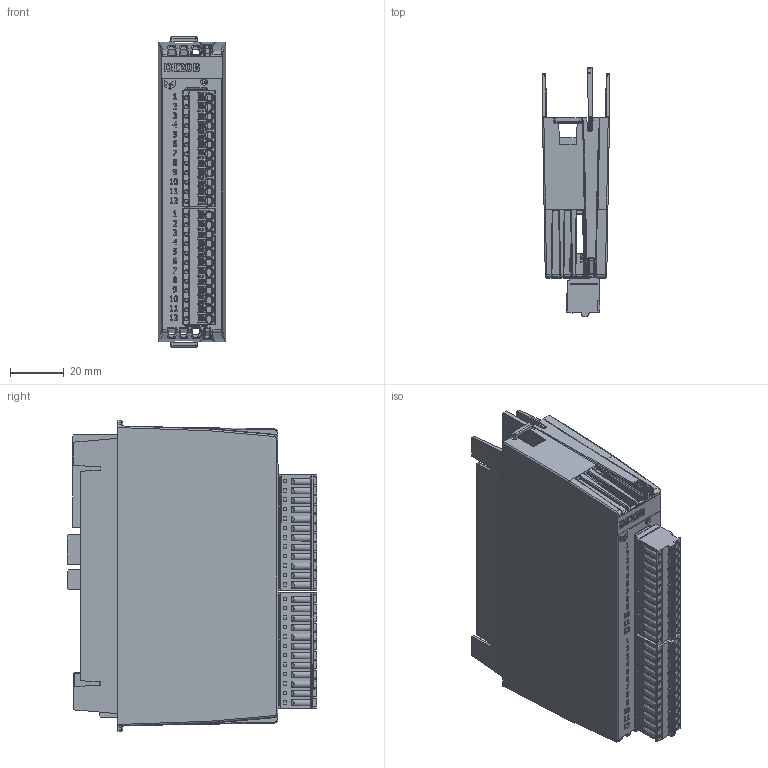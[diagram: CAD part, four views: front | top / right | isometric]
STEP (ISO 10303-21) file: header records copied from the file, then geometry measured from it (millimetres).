
FILE_DESCRIPTION(/* description */ (''),/* implementation_level */ '2;1');
FILE_NAME(/* name */ 'C:\Users\Public\Documents\Autodesk\Inventor 2023\DI20B_Simplified.stp',/* time_stamp */ '2024-10-15T20:46:02+02:00',/* author */ ('shoma'),/* organization */ (''),/* preprocessor_version */ 'ST-DEVELOPER v19',/* originating_system */ 'Autodesk Inventor 2023',/* authorisation */ '');
FILE_SCHEMA (('AUTOMOTIVE_DESIGN { 1 0 10303 214 3 1 1 }'));
Products named in the file (1): DI20B_Simplified
Bounding box: 24.95 x 92.98 x 115.5 mm (x, y, z)
Volume: 132666.5 mm3; surface area: 67327.9 mm2
Topology: 1 solids, 49 shells, 6380 faces, 16896 edges, 10817 vertices
Faces by surface type: plane 4209, cylinder 1335, bspline 572, cone 217, torus 25, sphere 22
Full cylindrical faces by diameter (mm): 0.296 x2, 0.3 x116, 0.457 x2, 1.17 x24, 1.2 x24, 1.25 x24, 1.3 x24, 1.6 x24, 2.5 x1, 3.1 x24
Entity records: 218002 total; most frequent: CARTESIAN_POINT 54083, ORIENTED_EDGE 33738, DIRECTION 30700, EDGE_CURVE 16869, LINE 12422, VECTOR 12422, VERTEX_POINT 10817, AXIS2_PLACEMENT_3D 9139
